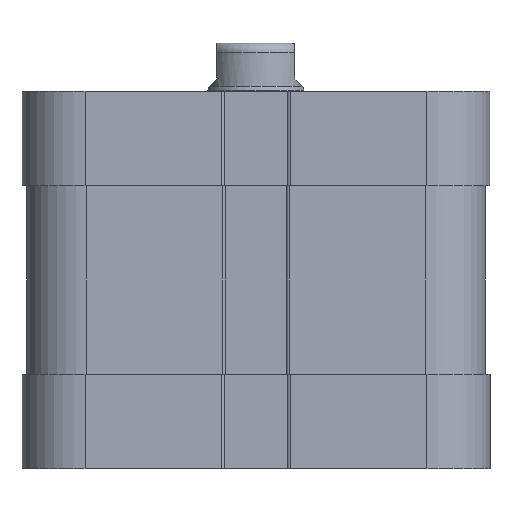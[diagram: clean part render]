
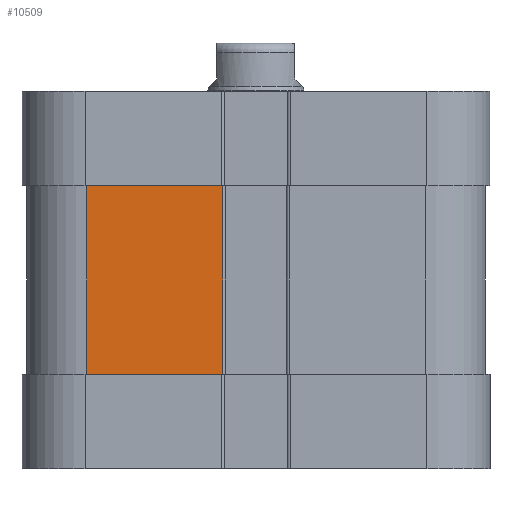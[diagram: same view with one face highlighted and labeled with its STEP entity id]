
A CAD part, front view. The second image highlights one B-rep face of the part: STEP entity #10509.
In plain terms, the highlighted planar face has unit normal (0, -1, 0).
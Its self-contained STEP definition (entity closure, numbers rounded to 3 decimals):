
#3 = LINE ( 'NONE', #20030, #19847 ) ;
#861 = DIRECTION ( 'NONE',  ( 0., 0., 1. ) ) ;
#1963 = PLANE ( 'NONE',  #16060 ) ;
#2165 = VERTEX_POINT ( 'NONE', #11759 ) ;
#3883 = CARTESIAN_POINT ( 'NONE',  ( -28.25, -38.25, -10. ) ) ;
#3907 = EDGE_CURVE ( 'NONE', #11816, #19902, #8475, .T. ) ;
#4364 = EDGE_CURVE ( 'NONE', #2165, #14390, #3, .T. ) ;
#6418 = VECTOR ( 'NONE', #13192, 1000. ) ;
#7246 = LINE ( 'NONE', #9155, #17768 ) ;
#7725 = CARTESIAN_POINT ( 'NONE',  ( -28.25, -38.25, -10. ) ) ;
#8340 = EDGE_CURVE ( 'NONE', #2165, #11816, #7246, .T. ) ;
#8475 = LINE ( 'NONE', #7725, #6418 ) ;
#9155 = CARTESIAN_POINT ( 'NONE',  ( -28.25, -38.25, 21.4 ) ) ;
#10509 = ADVANCED_FACE ( 'NONE', ( #17803 ), #1963, .F. ) ;
#10720 = EDGE_CURVE ( 'NONE', #19902, #14390, #14452, .T. ) ;
#11759 = CARTESIAN_POINT ( 'NONE',  ( -28.25, -38.25, 21.4 ) ) ;
#11816 = VERTEX_POINT ( 'NONE', #3883 ) ;
#13192 = DIRECTION ( 'NONE',  ( 1., 0., 0. ) ) ;
#13414 = ORIENTED_EDGE ( 'NONE', *, *, #8340, .T. ) ;
#13650 = ORIENTED_EDGE ( 'NONE', *, *, #10720, .T. ) ;
#13845 = EDGE_LOOP ( 'NONE', ( #14368, #13650, #20893, #13414 ) ) ;
#14240 = CARTESIAN_POINT ( 'NONE',  ( -5.575, -38.25, -10. ) ) ;
#14368 = ORIENTED_EDGE ( 'NONE', *, *, #3907, .T. ) ;
#14390 = VERTEX_POINT ( 'NONE', #15195 ) ;
#14439 = CARTESIAN_POINT ( 'NONE',  ( -5.575, -38.25, 21.4 ) ) ;
#14452 = LINE ( 'NONE', #14439, #18085 ) ;
#15195 = CARTESIAN_POINT ( 'NONE',  ( -5.575, -38.25, 21.4 ) ) ;
#15701 = CARTESIAN_POINT ( 'NONE',  ( -28.25, -38.25, 21.4 ) ) ;
#16060 = AXIS2_PLACEMENT_3D ( 'NONE', #15701, #19596, #21581 ) ;
#17768 = VECTOR ( 'NONE', #24464, 1000. ) ;
#17803 = FACE_OUTER_BOUND ( 'NONE', #13845, .T. ) ;
#18085 = VECTOR ( 'NONE', #861, 1000. ) ;
#19596 = DIRECTION ( 'NONE',  ( 0., 1., 0. ) ) ;
#19847 = VECTOR ( 'NONE', #23587, 1000. ) ;
#19902 = VERTEX_POINT ( 'NONE', #14240 ) ;
#20030 = CARTESIAN_POINT ( 'NONE',  ( -28.25, -38.25, 21.4 ) ) ;
#20893 = ORIENTED_EDGE ( 'NONE', *, *, #4364, .F. ) ;
#21581 = DIRECTION ( 'NONE',  ( -1., 0., 0. ) ) ;
#23587 = DIRECTION ( 'NONE',  ( 1., 0., 0. ) ) ;
#24464 = DIRECTION ( 'NONE',  ( 0., 0., -1. ) ) ;
